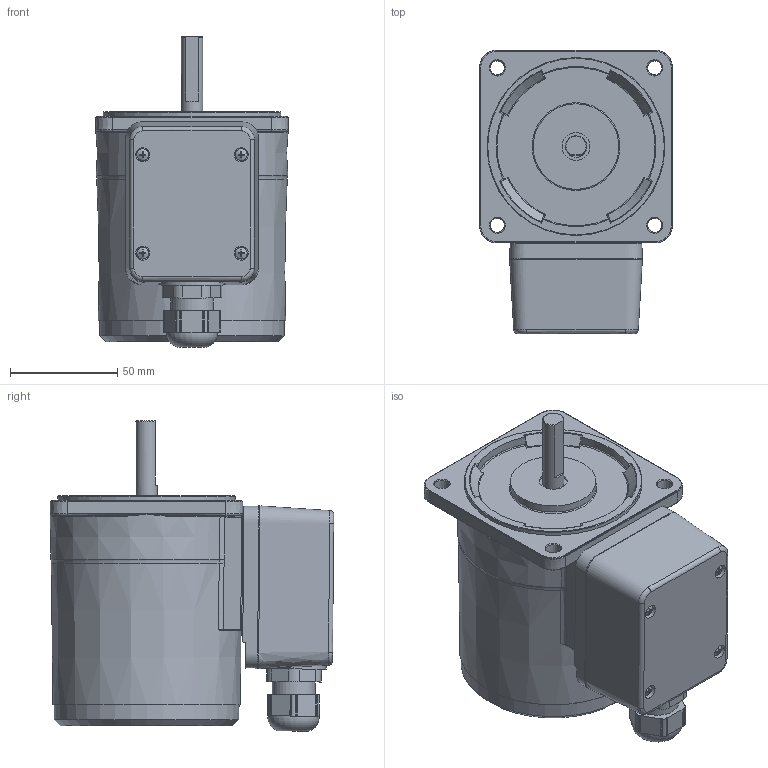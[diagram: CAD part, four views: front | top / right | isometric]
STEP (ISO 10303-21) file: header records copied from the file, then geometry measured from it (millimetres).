
FILE_DESCRIPTION (( 'STEP AP214' ), '1' );
FILE_NAME ('9IDD¤±-40-AT.STEP', '2025-01-13T02:53:52', ( '' ), ( '' ), 'SwSTEP 2.0', 'SolidWorks 2024', '' );
FILE_SCHEMA (( 'AUTOMOTIVE_DESIGN' ));
Length unit declared in the file: millimetre
Products named in the file (3): 9IDDㅁ-40; 9IDDㅁ-40-AT; TB6276
Assembly tree (2 placements, depth 2):
  9IDDㅁ-40-AT
    9IDDㅁ-40
    TB6276
Bounding box: 90 x 132.45 x 144.94 mm (x, y, z)
Volume: 859050.5 mm3; surface area: 72409.7 mm2
Topology: 2 solids, 2 shells, 405 faces, 999 edges, 639 vertices
Faces by surface type: plane 162, cylinder 111, torus 50, cone 46, bspline 34, sphere 2
Full cylindrical faces by diameter (mm): 5.5 x4, 6.5 x4, 6.6 x4, 8 x1, 10 x1, 13 x2, 20 x1, 40 x1, 83.1 x1
Entity records: 14226 total; most frequent: CARTESIAN_POINT 5139, DIRECTION 1834, ORIENTED_EDGE 1800, EDGE_CURVE 900, AXIS2_PLACEMENT_3D 733, VERTEX_POINT 622, EDGE_LOOP 536, FACE_OUTER_BOUND 451
